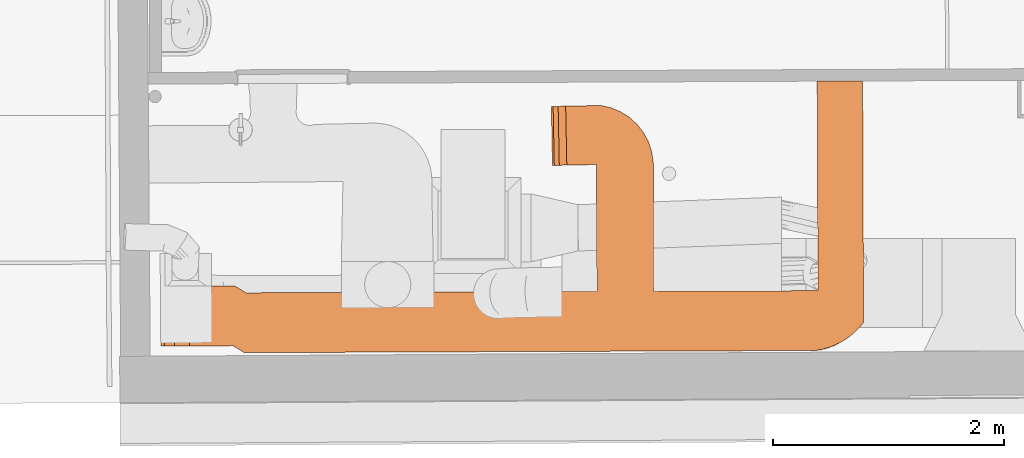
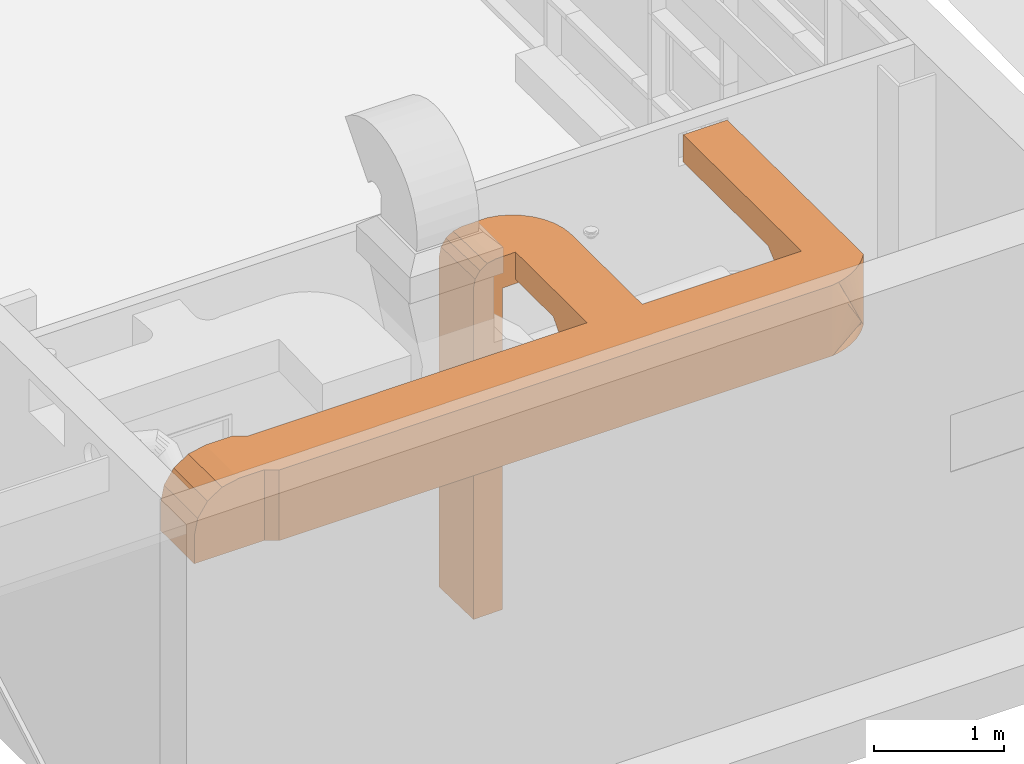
# One storey, part 148 of 158: 1 proxy.
"""IFC2X3 building model written with IfcOpenShell, lengths in metres."""

from ifc_helpers import new_model, entity, si_unit, converted_unit, derived_unit, money_unit, direction, origin_with_axes, place, context, subcontext, project, spatial, faceted_brep, material, type_object, element, save


model = new_model("IFC2X3")

# Units and contexts
model_context = context("Model", 3, precision=1e-05, world=origin_with_axes(), true_north=direction((0.0, 1.0)))
body_context = subcontext(model_context, "Body", "Model", "MODEL_VIEW")
ifc_project = project(units=[si_unit("LENGTHUNIT", "METRE"), si_unit("AREAUNIT", "SQUARE_METRE"), si_unit("VOLUMEUNIT", "CUBIC_METRE"), converted_unit("PLANEANGLEUNIT", "DEGREE", entity("IfcPlaneAngleMeasure", 0.0174532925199), si_unit("PLANEANGLEUNIT", "RADIAN"), dimensions=[0, 0, 0, 0, 0, 0, 0]), money_unit("EUR"), converted_unit("TIMEUNIT", "Year", entity("IfcTimeMeasure", 31556926.0), si_unit("TIMEUNIT", "SECOND"), dimensions=[0, 0, 1, 0, 0, 0, 0]), si_unit("MASSUNIT", "GRAM", prefix="KILO"), si_unit("THERMODYNAMICTEMPERATUREUNIT", "DEGREE_CELSIUS"), si_unit("LUMINOUSINTENSITYUNIT", "LUMEN"), si_unit("ENERGYUNIT", "JOULE", prefix="MEGA"), derived_unit("THERMALCONDUCTANCEUNIT", [(si_unit("POWERUNIT", "WATT"), 1), (si_unit("LENGTHUNIT", "METRE"), -1), (si_unit("THERMODYNAMICTEMPERATUREUNIT", "KELVIN"), -1)]), derived_unit("SPECIFICHEATCAPACITYUNIT", [(si_unit("ENERGYUNIT", "JOULE"), 1), (si_unit("MASSUNIT", "GRAM", prefix="KILO"), -1), (si_unit("THERMODYNAMICTEMPERATUREUNIT", "KELVIN"), -1)]), derived_unit("MASSDENSITYUNIT", [(si_unit("MASSUNIT", "GRAM", prefix="KILO"), 1), (si_unit("VOLUMEUNIT", "CUBIC_METRE"), -1)])], contexts=[model_context])

# Site, building, storey
site_placement = place(None, origin_with_axes())
site = spatial("IfcSite", under=ifc_project, at=site_placement, Name="Gelände", CompositionType="ELEMENT")
building_placement = place(site_placement, origin_with_axes())
building = spatial("IfcBuilding", under=site, at=building_placement, Name="Gebäude", CompositionType="ELEMENT")
storey_placement = place(building_placement, origin_with_axes())
storey = spatial("IfcBuildingStorey", under=building, at=storey_placement, Name="ERDGESCHOSS", CompositionType="ELEMENT", Elevation=0.0)

# Proxy
ifc_material = material(Name="56_Metall, Stahl verzinkt")
building_element_proxy_type = type_object("IfcBuildingElementProxyType", Name="56_Metall, Stahl verzinkt", PredefinedType="NOTDEFINED")
proxy_placement = place(storey_placement, origin_with_axes())
element("IfcBuildingElementProxy", 1, at=proxy_placement, inside=storey, type_object=building_element_proxy_type, material=ifc_material, Name="04", context=body_context, shape_type="Brep", body=[
    faceted_brep([(-23.2949010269, 31.3977603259, 4.27363822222), (-23.2949010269, 31.3977603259, 4.0086726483), (-22.670398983, 31.4001163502, 4.0086726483), (-22.670398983, 31.4001163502, 4.67363822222), (-22.8949038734, 31.399269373, 4.67363822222), (-23.0479761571, 31.3986918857, 4.64319003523), (-23.1777445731, 31.3982023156, 4.5564809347), (-23.2644530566, 31.3978751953, 4.42671159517), (-23.2968514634, 31.9147548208, 4.27363822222), (-23.2968514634, 31.9147548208, 4.0086726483), (-22.6552962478, 31.9171751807, 4.0086726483), (-22.5583130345, 31.8576200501, 4.0086726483), (-19.5261354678, 31.8690593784, 4.0086726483), (-19.0341397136, 31.8709155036, 4.0086726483), (-17.636576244, 31.8761880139, 4.0086726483), (-17.6147249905, 31.8762704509, 4.0086726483), (-17.2219863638, 31.8777521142, 4.0086726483), (-17.2219863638, 31.600169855, 4.0086726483), (-17.2614511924, 31.5533195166, 4.0086726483), (-17.3053007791, 31.5105452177, 4.0086726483), (-17.3531163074, 31.4722555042, 4.0086726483), (-17.4044410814, 31.4388160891, 4.0086726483), (-17.4587848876, 31.4105463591, 4.0086726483), (-17.5156286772, 31.3877163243, 4.0086726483), (-17.5744295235, 31.3705440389, 4.0086726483), (-17.6346258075, 31.359193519, 4.0086726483), (-22.5734157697, 31.3405612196, 4.0086726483), (-22.5734157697, 31.3405612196, 4.67363822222), (-17.6346258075, 31.359193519, 4.67363822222), (-17.5743507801, 31.3703159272, 4.67363822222), (-17.5154682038, 31.3873344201, 4.67363822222), (-17.4585533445, 31.4100827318, 4.67363822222), (-17.4041622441, 31.4383386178, 4.67363822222), (-17.3528262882, 31.4718260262, 4.67363822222), (-17.3050470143, 31.5102177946, 4.67363822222), (-17.2612912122, 31.5531388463, 4.67363822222), (-17.2219863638, 31.600169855, 4.67363822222), (-17.2219863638, 31.8777521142, 4.67363822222), (-17.2288178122, 33.6885371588, 4.67363822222), (-17.6215555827, 33.6868285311, 4.67363822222), (-17.6147249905, 31.8762704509, 4.67363822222), (-17.636576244, 31.8761880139, 4.67363822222), (-19.0341397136, 31.8709155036, 4.67363822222), (-19.0383076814, 32.975702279, 4.67363822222), (-19.0497305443, 33.0664332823, 4.67363822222), (-19.076678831, 33.1538197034, 4.67363822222), (-19.1183397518, 33.2352258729, 4.67363822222), (-19.1734567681, 33.3081964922, 4.67363822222), (-19.2403674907, 33.3705306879, 4.67363822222), (-19.3170538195, 33.420348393, 4.67363822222), (-19.4012028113, 33.4561470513, 4.67363822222), (-19.490276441, 33.4768469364, 4.67363822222), (-19.7192653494, 33.4723096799, 4.67363822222), (-19.7091620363, 32.9624097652, 4.67363822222), (-19.5302736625, 32.9659543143, 4.67363822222), (-19.5261354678, 31.8690593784, 4.67363822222), (-22.5583130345, 31.8576200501, 4.67363822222), (-22.6552962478, 31.9171751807, 4.67363822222), (-22.8968543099, 31.9162638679, 4.67363822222), (-23.0499265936, 31.9156863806, 4.64319003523), (-23.1796950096, 31.9151968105, 4.5564809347), (-23.2664034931, 31.9148696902, 4.42671159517), (-19.5267865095, 32.0416284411, 4.02280122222), (-19.0347907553, 32.0434845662, 4.02280122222), (-17.6156408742, 32.119040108, 4.17297622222), (-17.2229022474, 32.1205217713, 4.17297622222), (-17.2692675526, 31.5485639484, 4.08486595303), (-17.5802280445, 31.3669668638, 4.58597660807), (-17.2239170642, 32.3895152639, 4.41644522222), (-17.2288178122, 33.6885371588, 4.41644522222), (-17.6215555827, 33.6868285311, 4.41644522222), (-17.616655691, 32.3880336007, 4.41644522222), (-19.0350822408, 32.1207474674, 4.11000822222), (-19.0360970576, 32.38974096, 4.41644522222), (-19.0383076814, 32.975702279, 4.41644522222), (-19.0383076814, 32.975702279, 4.37745988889), (-19.0497305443, 33.0664332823, 4.37745988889), (-19.076678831, 33.1538197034, 4.37745988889), (-19.1183397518, 33.2352258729, 4.37745988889), (-19.1734567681, 33.3081964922, 4.37745988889), (-19.2403674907, 33.3705306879, 4.37745988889), (-19.3170538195, 33.420348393, 4.37745988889), (-19.4012028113, 33.4561470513, 4.37745988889), (-19.490276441, 33.4768469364, 4.37745988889), (-19.9192261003, 33.4683475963, 1.35246288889), (-19.9192261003, 33.4683475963, 4.47363822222), (-19.9040049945, 33.468649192, 4.5501749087), (-19.8606589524, 33.4695080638, 4.61505957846), (-19.7957870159, 33.4707934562, 4.65841412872), (-19.6592771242, 33.473498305, 4.37745988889), (-19.6592771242, 33.473498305, 1.35246288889), (-19.7856837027, 32.9608935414, 4.65841412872), (-19.9091227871, 32.9584476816, 4.47363822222), (-19.9091227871, 32.9584476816, 1.35246288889), (-19.649173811, 32.9635983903, 1.35246288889), (-19.649173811, 32.9635983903, 4.37745988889), (-19.5302736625, 32.9659543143, 4.37745988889), (-19.5302736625, 32.9659543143, 4.41644522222), (-19.8505556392, 32.959608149, 4.61505957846), (-19.8939016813, 32.9587492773, 4.5501749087), (-19.5280928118, 32.3878848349, 4.41644522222), (-19.527077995, 32.1188913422, 4.11000822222), (-17.3181887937, 31.5027855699, 4.16370219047), (-17.5262027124, 31.3813080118, 4.49891516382), (-17.3685506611, 31.4630213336, 4.24485998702), (-17.472770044, 31.4021585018, 4.41280879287), (-17.420147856, 31.4294333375, 4.32800850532)], [[[0, 1, 2, 3, 4, 5, 6, 7]], [[1, 0, 8, 9]], [[2, 1, 9, 10, 11, 12, 13, 14, 15, 16, 17, 18, 19, 20, 21, 22, 23, 24, 25, 26]], [[2, 26, 3]], [[4, 3, 27, 28, 29, 30, 31, 32, 33, 34, 35, 36, 37, 38, 39, 40, 41, 42, 43, 44, 45, 46, 47, 48, 49, 50, 51, 52, 53, 54, 55, 56, 57, 58]], [[5, 4, 58, 59]], [[6, 5, 59, 60]], [[7, 6, 60, 61]], [[0, 7, 61, 8]], [[10, 9, 8, 61, 60, 59, 58, 57]], [[56, 11, 10, 57]], [[11, 56, 55, 12]], [[13, 12, 62, 63]], [[42, 41, 14, 13]], [[15, 14, 41, 40]], [[15, 64, 65, 16]], [[36, 17, 16]], [[18, 17, 66]], [[19, 18, 66]], [[20, 19, 66]], [[21, 20, 66]], [[22, 21, 66]], [[23, 22, 66]], [[24, 23, 66]], [[25, 24, 66]], [[27, 26, 25, 28]], [[3, 26, 27]], [[29, 28, 67]], [[30, 29, 17]], [[31, 30, 17]], [[32, 31, 17]], [[33, 32, 17]], [[34, 33, 17]], [[35, 34, 17]], [[35, 17, 36]], [[37, 36, 16]], [[65, 68, 69, 38, 37, 16]], [[70, 39, 38, 69]], [[15, 40, 39, 70, 71, 64]], [[72, 73, 74, 43, 42, 13, 63]], [[75, 76, 44, 43, 74]], [[45, 44, 76, 77]], [[77, 78, 46, 45]], [[78, 79, 47, 46]], [[79, 80, 48, 47]], [[48, 80, 81, 49]], [[81, 82, 50, 49]], [[82, 83, 51, 50]], [[84, 85, 86, 87, 88, 52, 51, 83, 89, 90]], [[91, 53, 52, 88]], [[92, 93, 94, 95, 96, 97, 54, 53, 91, 98, 99]], [[12, 55, 54, 97, 100, 101, 62]], [[62, 101, 72, 63]], [[64, 71, 68, 65]], [[17, 29, 66]], [[102, 25, 66]], [[28, 25, 67]], [[67, 103, 29]], [[71, 70, 69, 68]], [[101, 100, 73, 72]], [[100, 97, 74, 73]], [[95, 89, 83, 82, 81, 80, 79, 78, 77, 76, 75, 96]], [[97, 96, 75, 74]], [[93, 92, 85, 84]], [[92, 99, 86, 85]], [[99, 98, 87, 86]], [[98, 91, 88, 87]], [[90, 89, 95, 94]], [[93, 84, 90, 94]], [[29, 102, 66]], [[104, 25, 102]], [[67, 25, 103]], [[103, 105, 29]], [[104, 102, 29]], [[106, 25, 104]], [[103, 25, 105]], [[105, 106, 29]], [[29, 106, 104]], [[25, 106, 105]]]),
])

save(model, "model.ifc")
